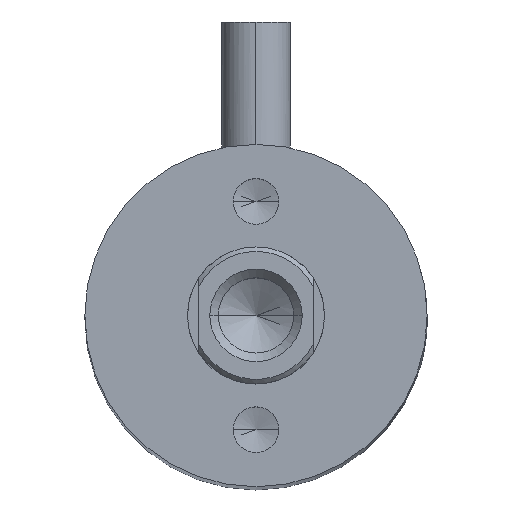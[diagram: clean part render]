
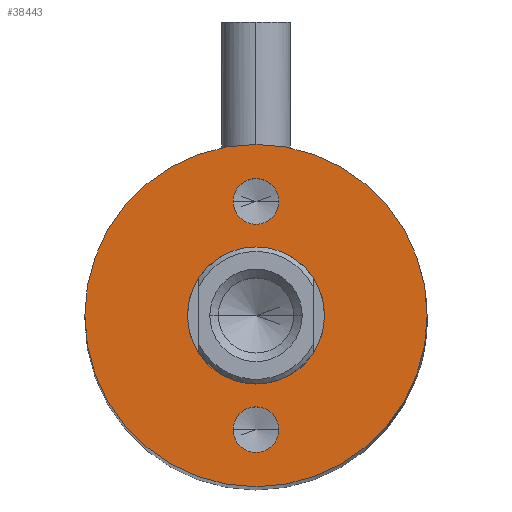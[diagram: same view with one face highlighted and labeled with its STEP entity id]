
A CAD part, top view. The second image highlights one B-rep face of the part: STEP entity #38443.
In plain terms, the highlighted planar face has unit normal (0, 0, 1).
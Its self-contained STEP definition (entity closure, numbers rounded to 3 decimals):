
#55 = VERTEX_POINT ( 'NONE', #21970 ) ;
#579 = CARTESIAN_POINT ( 'NONE',  ( -7.5, 0., 82.5 ) ) ;
#1348 = CARTESIAN_POINT ( 'NONE',  ( 0., 5., 82.5 ) ) ;
#1383 = DIRECTION ( 'NONE',  ( 0., 0., 1. ) ) ;
#1722 = CARTESIAN_POINT ( 'NONE',  ( 0., 0., 82.5 ) ) ;
#2145 = AXIS2_PLACEMENT_3D ( 'NONE', #43656, #15852, #50695 ) ;
#3149 = CIRCLE ( 'NONE', #31357, 1. ) ;
#3385 = CIRCLE ( 'NONE', #36803, 3. ) ;
#3618 = ORIENTED_EDGE ( 'NONE', *, *, #47497, .F. ) ;
#4344 = PLANE ( 'NONE',  #10784 ) ;
#4582 = DIRECTION ( 'NONE',  ( 0., 0., 1. ) ) ;
#4797 = CARTESIAN_POINT ( 'NONE',  ( 0., -5., 82.5 ) ) ;
#5274 = DIRECTION ( 'NONE',  ( 0., 0., 1. ) ) ;
#6078 = DIRECTION ( 'NONE',  ( 0., 0., 1. ) ) ;
#6306 = EDGE_CURVE ( 'NONE', #21116, #36055, #47003, .T. ) ;
#6984 = ORIENTED_EDGE ( 'NONE', *, *, #40254, .F. ) ;
#7090 = ORIENTED_EDGE ( 'NONE', *, *, #46853, .F. ) ;
#7116 = CIRCLE ( 'NONE', #9691, 7.5 ) ;
#8874 = CARTESIAN_POINT ( 'NONE',  ( 3., 0., 82.5 ) ) ;
#8965 = CARTESIAN_POINT ( 'NONE',  ( -1., -5., 82.5 ) ) ;
#9691 = AXIS2_PLACEMENT_3D ( 'NONE', #46622, #35310, #19825 ) ;
#9760 = EDGE_LOOP ( 'NONE', ( #7090, #6984 ) ) ;
#10528 = VERTEX_POINT ( 'NONE', #8874 ) ;
#10784 = AXIS2_PLACEMENT_3D ( 'NONE', #39330, #27558, #12391 ) ;
#12017 = ORIENTED_EDGE ( 'NONE', *, *, #30239, .F. ) ;
#12391 = DIRECTION ( 'NONE',  ( 1., 0., 0. ) ) ;
#12455 = DIRECTION ( 'NONE',  ( 1., 0., 0. ) ) ;
#13130 = CARTESIAN_POINT ( 'NONE',  ( 1., -5., 82.5 ) ) ;
#15373 = CARTESIAN_POINT ( 'NONE',  ( 7.5, 0., 82.5 ) ) ;
#15852 = DIRECTION ( 'NONE',  ( 0., 0., 1. ) ) ;
#18607 = VERTEX_POINT ( 'NONE', #21282 ) ;
#19825 = DIRECTION ( 'NONE',  ( 1., 0., 0. ) ) ;
#20297 = FACE_BOUND ( 'NONE', #9760, .T. ) ;
#20376 = CARTESIAN_POINT ( 'NONE',  ( 1., 5., 82.5 ) ) ;
#20905 = FACE_BOUND ( 'NONE', #36481, .T. ) ;
#21116 = VERTEX_POINT ( 'NONE', #8965 ) ;
#21282 = CARTESIAN_POINT ( 'NONE',  ( -1., 5., 82.5 ) ) ;
#21970 = CARTESIAN_POINT ( 'NONE',  ( -3., 0., 82.5 ) ) ;
#22803 = EDGE_CURVE ( 'NONE', #37873, #34066, #7116, .T. ) ;
#24505 = EDGE_CURVE ( 'NONE', #10528, #55, #3385, .T. ) ;
#24894 = CARTESIAN_POINT ( 'NONE',  ( 0., -5., 82.5 ) ) ;
#25231 = ORIENTED_EDGE ( 'NONE', *, *, #24505, .F. ) ;
#27203 = AXIS2_PLACEMENT_3D ( 'NONE', #1348, #5274, #32554 ) ;
#27558 = DIRECTION ( 'NONE',  ( 0., 0., 1. ) ) ;
#28696 = AXIS2_PLACEMENT_3D ( 'NONE', #4797, #1383, #32069 ) ;
#28918 = ORIENTED_EDGE ( 'NONE', *, *, #22803, .T. ) ;
#30239 = EDGE_CURVE ( 'NONE', #36055, #21116, #42983, .T. ) ;
#31357 = AXIS2_PLACEMENT_3D ( 'NONE', #36147, #4582, #12455 ) ;
#32069 = DIRECTION ( 'NONE',  ( 1., 0., 0. ) ) ;
#32414 = DIRECTION ( 'NONE',  ( 1., 0., 0. ) ) ;
#32554 = DIRECTION ( 'NONE',  ( 1., 0., 0. ) ) ;
#32736 = DIRECTION ( 'NONE',  ( 0., 0., 1. ) ) ;
#32873 = DIRECTION ( 'NONE',  ( 0., 0., 1. ) ) ;
#33326 = DIRECTION ( 'NONE',  ( 1., 0., 0. ) ) ;
#34066 = VERTEX_POINT ( 'NONE', #579 ) ;
#35200 = ORIENTED_EDGE ( 'NONE', *, *, #49404, .T. ) ;
#35310 = DIRECTION ( 'NONE',  ( 0., 0., 1. ) ) ;
#36055 = VERTEX_POINT ( 'NONE', #13130 ) ;
#36147 = CARTESIAN_POINT ( 'NONE',  ( 0., 5., 82.5 ) ) ;
#36481 = EDGE_LOOP ( 'NONE', ( #12017, #37869 ) ) ;
#36803 = AXIS2_PLACEMENT_3D ( 'NONE', #1722, #32736, #32414 ) ;
#37127 = EDGE_LOOP ( 'NONE', ( #35200, #28918 ) ) ;
#37869 = ORIENTED_EDGE ( 'NONE', *, *, #6306, .F. ) ;
#37873 = VERTEX_POINT ( 'NONE', #15373 ) ;
#38443 = ADVANCED_FACE ( 'NONE', ( #20905, #20297, #49036, #46531 ), #4344, .T. ) ;
#38914 = EDGE_LOOP ( 'NONE', ( #3618, #25231 ) ) ;
#39072 = CIRCLE ( 'NONE', #27203, 1. ) ;
#39330 = CARTESIAN_POINT ( 'NONE',  ( 0., 0., 82.5 ) ) ;
#40223 = DIRECTION ( 'NONE',  ( 1., 0., 0. ) ) ;
#40254 = EDGE_CURVE ( 'NONE', #18607, #40817, #3149, .T. ) ;
#40301 = AXIS2_PLACEMENT_3D ( 'NONE', #48929, #6078, #33326 ) ;
#40753 = AXIS2_PLACEMENT_3D ( 'NONE', #24894, #32873, #40223 ) ;
#40817 = VERTEX_POINT ( 'NONE', #20376 ) ;
#42983 = CIRCLE ( 'NONE', #40753, 1. ) ;
#43656 = CARTESIAN_POINT ( 'NONE',  ( 0., 0., 82.5 ) ) ;
#45857 = CIRCLE ( 'NONE', #2145, 7.5 ) ;
#46531 = FACE_OUTER_BOUND ( 'NONE', #37127, .T. ) ;
#46622 = CARTESIAN_POINT ( 'NONE',  ( 0., 0., 82.5 ) ) ;
#46853 = EDGE_CURVE ( 'NONE', #40817, #18607, #39072, .T. ) ;
#47003 = CIRCLE ( 'NONE', #28696, 1. ) ;
#47497 = EDGE_CURVE ( 'NONE', #55, #10528, #49571, .T. ) ;
#48929 = CARTESIAN_POINT ( 'NONE',  ( 0., 0., 82.5 ) ) ;
#49036 = FACE_BOUND ( 'NONE', #38914, .T. ) ;
#49404 = EDGE_CURVE ( 'NONE', #34066, #37873, #45857, .T. ) ;
#49571 = CIRCLE ( 'NONE', #40301, 3. ) ;
#50695 = DIRECTION ( 'NONE',  ( 1., 0., 0. ) ) ;
